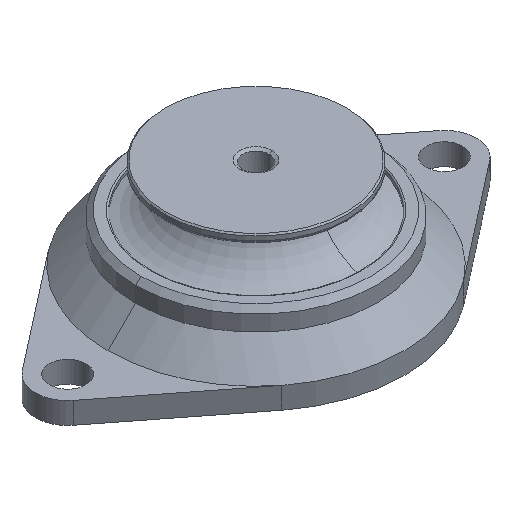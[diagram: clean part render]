
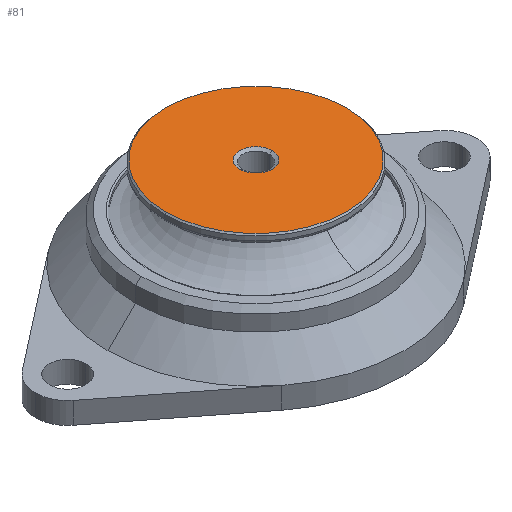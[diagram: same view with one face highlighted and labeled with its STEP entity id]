
A CAD part, isometric view. The second image highlights one B-rep face of the part: STEP entity #81.
In plain terms, the highlighted planar face has unit normal (0, 0, 1).
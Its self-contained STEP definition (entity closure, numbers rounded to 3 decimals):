
#81=ADVANCED_FACE('',(#187,#188),#189,.T.);
#187=FACE_OUTER_BOUND('',#334,.T.);
#188=FACE_BOUND('',#335,.T.);
#189=PLANE('',#336);
#334=EDGE_LOOP('',(#680,#681));
#335=EDGE_LOOP('',(#682,#683));
#336=AXIS2_PLACEMENT_3D('',#684,#685,#686);
#680=ORIENTED_EDGE('',*,*,#1046,.F.);
#681=ORIENTED_EDGE('',*,*,#1079,.F.);
#682=ORIENTED_EDGE('',*,*,#1078,.T.);
#683=ORIENTED_EDGE('',*,*,#1049,.T.);
#684=CARTESIAN_POINT('',(9.875,0.0,21.0));
#685=DIRECTION('',(0.0,0.,1.0));
#686=DIRECTION('',(-1.0,0.0,0.0));
#1046=EDGE_CURVE('',#1291,#1293,#1294,.T.);
#1049=EDGE_CURVE('',#1299,#1296,#1300,.T.);
#1078=EDGE_CURVE('',#1296,#1299,#1340,.T.);
#1079=EDGE_CURVE('',#1293,#1291,#1341,.T.);
#1291=VERTEX_POINT('',#1591);
#1293=VERTEX_POINT('',#1594);
#1294=CIRCLE('',#1595,16.75);
#1296=VERTEX_POINT('',#1598);
#1299=VERTEX_POINT('',#1602);
#1300=CIRCLE('',#1603,3.0);
#1340=CIRCLE('',#1648,3.0);
#1341=CIRCLE('',#1649,16.75);
#1591=CARTESIAN_POINT('',(16.75,0.0,21.0));
#1594=CARTESIAN_POINT('',(-16.75,0.,21.0));
#1595=AXIS2_PLACEMENT_3D('',#1936,#1937,#1938);
#1598=CARTESIAN_POINT('',(3.0,0.0,21.0));
#1602=CARTESIAN_POINT('',(-3.0,0.,21.0));
#1603=AXIS2_PLACEMENT_3D('',#1941,#1942,#1943);
#1648=AXIS2_PLACEMENT_3D('',#2018,#2019,#2020);
#1649=AXIS2_PLACEMENT_3D('',#2021,#2022,#2023);
#1936=CARTESIAN_POINT('',(0.0,0.0,21.0));
#1937=DIRECTION('',(0.0,0.,-1.0));
#1938=DIRECTION('',(1.0,0.0,0.0));
#1941=CARTESIAN_POINT('',(0.0,0.0,21.0));
#1942=DIRECTION('',(0.0,0.,-1.0));
#1943=DIRECTION('',(1.0,0.0,0.0));
#2018=CARTESIAN_POINT('',(0.0,0.0,21.0));
#2019=DIRECTION('',(0.0,0.,-1.0));
#2020=DIRECTION('',(1.0,0.0,0.0));
#2021=CARTESIAN_POINT('',(0.0,0.0,21.0));
#2022=DIRECTION('',(0.0,0.,-1.0));
#2023=DIRECTION('',(1.0,0.0,0.0));
